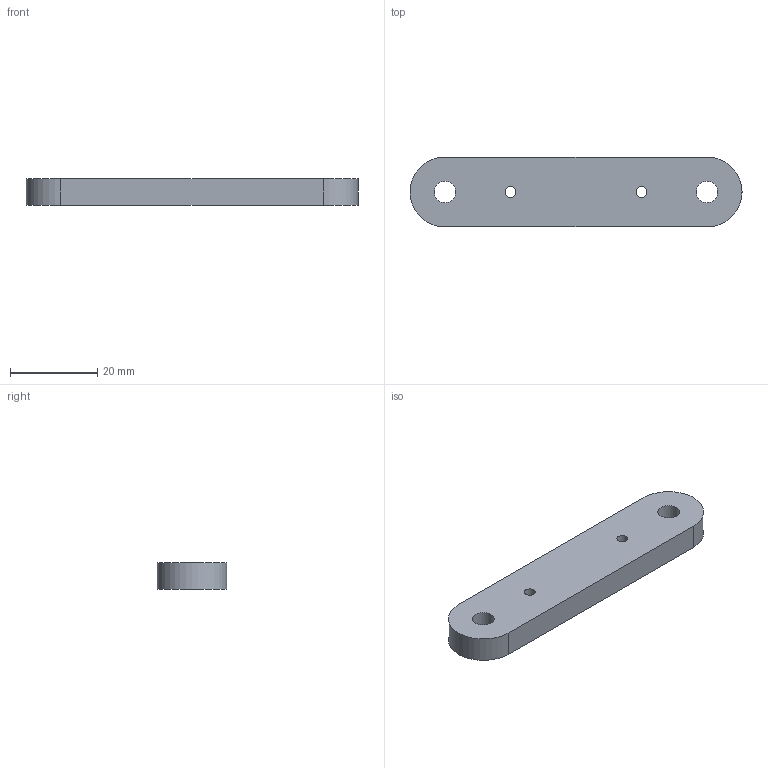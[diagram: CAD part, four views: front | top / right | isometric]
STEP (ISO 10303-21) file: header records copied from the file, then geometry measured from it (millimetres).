
FILE_DESCRIPTION(/* description */ ('CONTRE BRIDE','CAx-IF Rec.Pracs.---Representation and Presentation of Product Manufacturing Information (PMI)---4.0---2014-10-13'),/* implementation_level */ '2;1');
FILE_NAME(/* name */ 'vv810011-A.stp',/* time_stamp */ '2025-09-29T10:10:34+02:00',/* author */ ('ALOCQUE'),/* organization */ (''),/* preprocessor_version */ 'ST-DEVELOPER v20',/* originating_system */ 'Autodesk Inventor 2025',/* authorisation */ '');
FILE_SCHEMA (('AP242_MANAGED_MODEL_BASED_3D_ENGINEERING_MIM_LF { 1 0 10303 442 1 1 4 }'));
Length unit declared in the file: millimetre
Products named in the file (1): VICTOR.V.81.00.11
Bounding box: 76 x 16 x 6 mm (x, y, z)
Volume: 6681.5 mm3; surface area: 3526.8 mm2
Topology: 1 solids, 1 shells, 10 faces, 24 edges, 16 vertices
Faces by surface type: cylinder 6, plane 4
Full cylindrical faces by diameter (mm): 2.459 x2, 4.917 x2
Entity records: 489 total; most frequent: CARTESIAN_POINT 87, DIRECTION 70, ORIENTED_EDGE 48, AXIS2_PLACEMENT_3D 29, EDGE_CURVE 24, STYLED_ITEM 23, EDGE_LOOP 18, VERTEX_POINT 16
